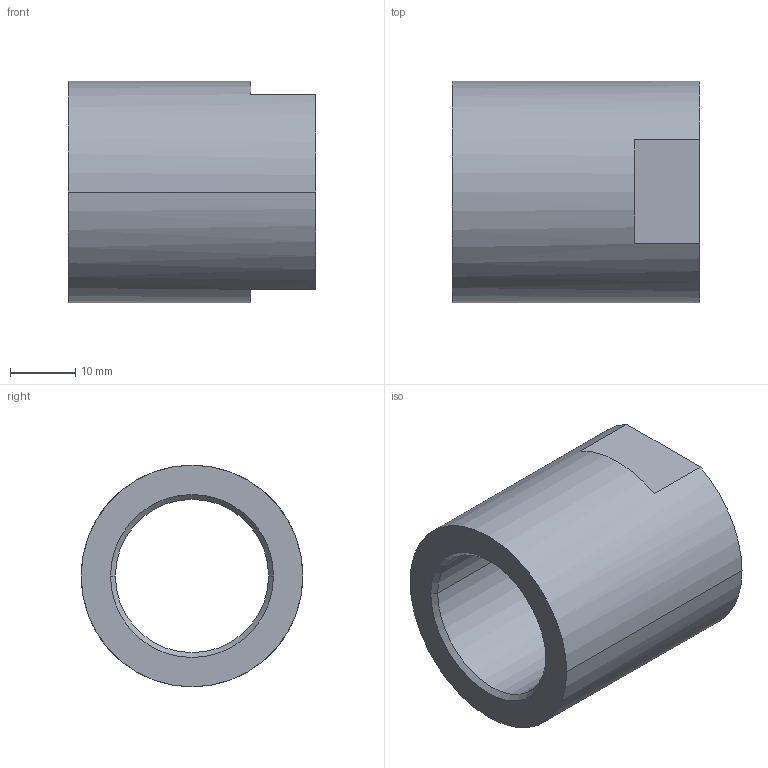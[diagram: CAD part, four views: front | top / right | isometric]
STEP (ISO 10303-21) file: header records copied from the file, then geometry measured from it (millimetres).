
FILE_DESCRIPTION((''),'2;1');
FILE_NAME('R412010340','2015-05-05T',('mla1hc'),(''),'PRO/ENGINEER BY PARAMETRIC TECHNOLOGY CORPORATION, 2011490','PRO/ENGINEER BY PARAMETRIC TECHNOLOGY CORPORATION, 2011490','');
FILE_SCHEMA(('AUTOMOTIVE_DESIGN_CC2 { 1 2 10303 214 -1 1 5 2 }'));
Length unit declared in the file: millimetre
Products named in the file (1): R412010340
Bounding box: 38 x 34 x 34 mm (x, y, z)
Volume: 17544.6 mm3; surface area: 7736.2 mm2
Topology: 1 solids, 1 shells, 14 faces, 32 edges, 20 vertices
Faces by surface type: plane 6, cone 4, cylinder 4
Entity records: 413 total; most frequent: DIRECTION 76, CARTESIAN_POINT 66, ORIENTED_EDGE 64, EDGE_CURVE 32, AXIS2_PLACEMENT_3D 30, VERTEX_POINT 20, VECTOR 16, LINE 16
